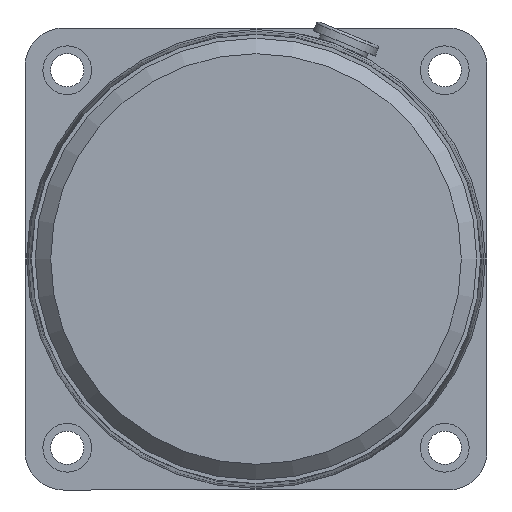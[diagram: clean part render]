
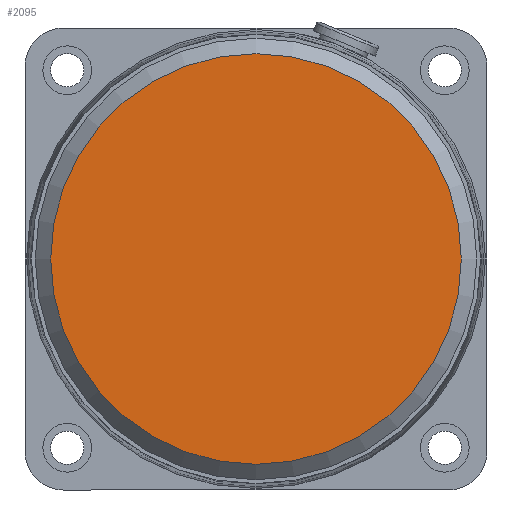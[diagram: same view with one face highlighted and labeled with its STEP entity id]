
A CAD part, left-side view. The second image highlights one B-rep face of the part: STEP entity #2095.
In plain terms, the highlighted planar face has unit normal (-1, 0, 0).
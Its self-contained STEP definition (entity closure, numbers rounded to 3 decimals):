
#1978=CARTESIAN_POINT('',(0.,40.,0.0));
#1979=VERTEX_POINT('',#1978);
#1980=CARTESIAN_POINT('',(0.,0.,0.0));
#1981=DIRECTION('',(1.0,0.0,0.0));
#1982=DIRECTION('',(0.0,1.0,0.0));
#1983=AXIS2_PLACEMENT_3D('',#1980,#1981,#1982);
#1984=CIRCLE('',#1983,40.);
#1985=EDGE_CURVE('',#1979,#1979,#1984,.T.);
#2087=CARTESIAN_POINT('',(0.,20.,0.0));
#2088=DIRECTION('',(-1.0,0.0,0.0));
#2089=DIRECTION('',(0.0,0.0,1.0));
#2090=AXIS2_PLACEMENT_3D('',#2087,#2088,#2089);
#2091=PLANE('',#2090);
#2092=ORIENTED_EDGE('',*,*,#1985,.F.);
#2093=EDGE_LOOP('',(#2092));
#2094=FACE_OUTER_BOUND('',#2093,.T.);
#2095=ADVANCED_FACE('',(#2094),#2091,.T.);
